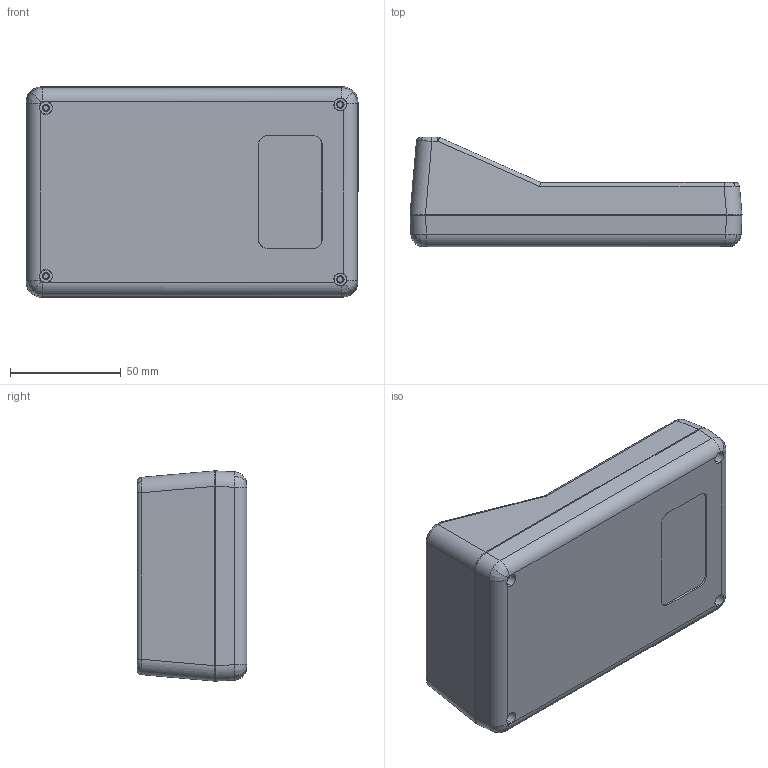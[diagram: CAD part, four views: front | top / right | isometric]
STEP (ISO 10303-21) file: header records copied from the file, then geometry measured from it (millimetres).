
FILE_DESCRIPTION (( 'STEP AP203' ), '1' );
FILE_NAME ('PT090-B.STEP', '2020-12-07T14:14:05', ( '' ), ( '' ), 'SwSTEP 2.0', 'SolidWorks 2020', '' );
FILE_SCHEMA (( 'CONFIG_CONTROL_DESIGN' ));
Length unit declared in the file: millimetre
Products named in the file (3): PT090-B
Assembly tree (2 placements, depth 2):
  PT090-B
    PT090-B
    PT090-B
Bounding box: 150 x 49.5 x 95 mm (x, y, z)
Volume: 122290.9 mm3; surface area: 90427.3 mm2
Topology: 2 solids, 2 shells, 344 faces, 878 edges, 578 vertices
Faces by surface type: plane 130, bspline 95, cylinder 73, cone 44, sphere 2
Entity records: 14095 total; most frequent: CARTESIAN_POINT 6128, ORIENTED_EDGE 1752, DIRECTION 1338, EDGE_CURVE 876, VERTEX_POINT 578, AXIS2_PLACEMENT_3D 470, LINE 398, VECTOR 398
